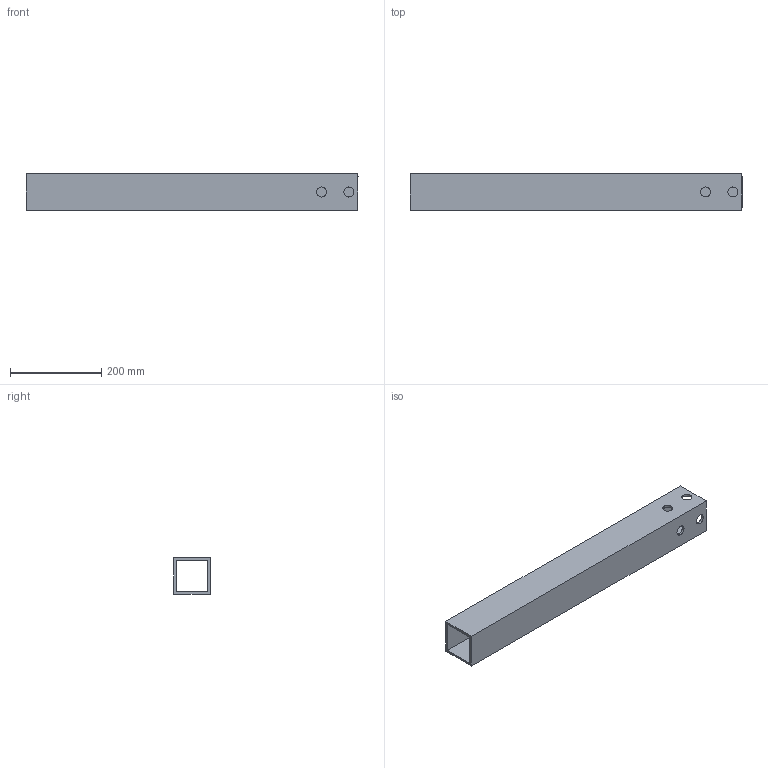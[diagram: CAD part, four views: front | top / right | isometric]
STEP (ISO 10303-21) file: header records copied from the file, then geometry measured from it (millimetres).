
FILE_DESCRIPTION(/* description */ (''),/* implementation_level */ '2;1');
FILE_NAME(/* name */ 'Pos167-Koker Profiel 80x80x5 EN 10210-2-S235JRH-3st',/* time_stamp */ '2024-08-06T13:37:42+02:00',/* author */ (''),/* organization */ (''),/* preprocessor_version */ 'ST-DEVELOPER v16.5',/* originating_system */ 'HiCAD 2024 2901.2 Build 361',/* authorisation */ '');
FILE_SCHEMA (('AUTOMOTIVE_DESIGN { 1 0 10303 214 1 1 1 1 }'));
Length unit declared in the file: millimetre
Products named in the file (1): Pos167-Koker Profiel 80x80x5 EN 10210-2-S235JRH-3st
Bounding box: 729.5 x 80 x 80 mm (x, y, z)
Volume: 1086647.3 mm3; surface area: 439041.2 mm2
Topology: 1 solids, 1 shells, 14 faces, 40 edges, 28 vertices
Faces by surface type: plane 10, cylinder 4
Full cylindrical faces by diameter (mm): 22 x4
Entity records: 766 total; most frequent: CARTESIAN_POINT 70, DIRECTION 68, PRESENTATION_STYLE_ASSIGNMENT 65, COLOUR_RGB 65, DRAUGHTING_PRE_DEFINED_CURVE_FONT 64, CURVE_STYLE 64, OVER_RIDING_STYLED_ITEM 64, ORIENTED_EDGE 64
